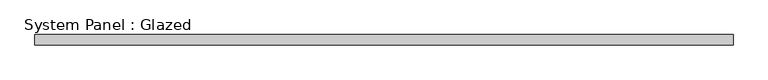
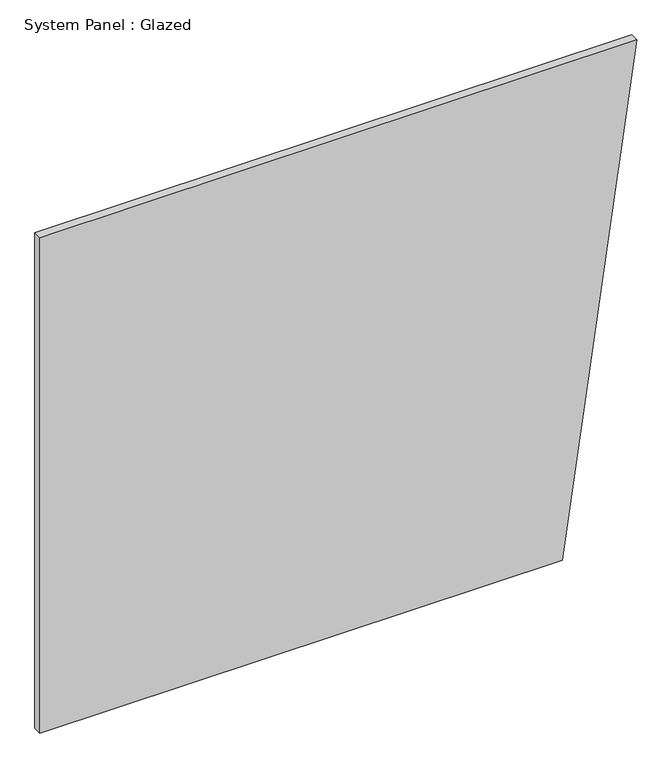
"""IFC4 building model written with IfcOpenShell, lengths in millimetres: plate geometry, System Panel : Glazed."""

from ifc_helpers import new_model, si_unit, frame, origin, place, context, project, spatial, polyline, outline, extrude, source, transform, mapped, element, save


def system_panel_glazed_8f495764(model_context):
    return source(origin(), model_context, "Body", "SweptSolid", [
        extrude(outline(polyline([(0.0, -868.1814204), (0.0, 651.1360653), (1524.0, 868.1814204), (1524.0, -868.1814204), (0.0, -868.1814204)])), frame((0.0, 19.05, 0.0), z_axis=(0.0, 1.0, 0.0), x_axis=(0.0, 0.0, 1.0)), (0.0, 0.0, 1.0), 25.4),
    ])


if __name__ == "__main__":
    model = new_model("IFC4")
    model_context = context("Model", 3, world=origin())
    ifc_project = project(units=[si_unit("LENGTHUNIT", "METRE", prefix="MILLI")], contexts=[model_context])
    site = spatial("IfcSite", under=ifc_project)
    building = spatial("IfcBuilding", under=site)
    placement = place(None, origin())
    system_panel_glazed_shape = system_panel_glazed_8f495764(model_context)
    element("IfcPlate", 1, ObjectType="System Panel : Glazed", at=placement, inside=building, context=model_context, shape_type="MappedRepresentation", body=[
        mapped(system_panel_glazed_shape, transform((0.0, 0.0, 0.0), x_axis=(1.0, 0.0, 0.0), y_axis=(0.0, 1.0, 0.0), z_axis=(0.0, 0.0, 1.0))),
    ])
    save(model, "model.ifc")
